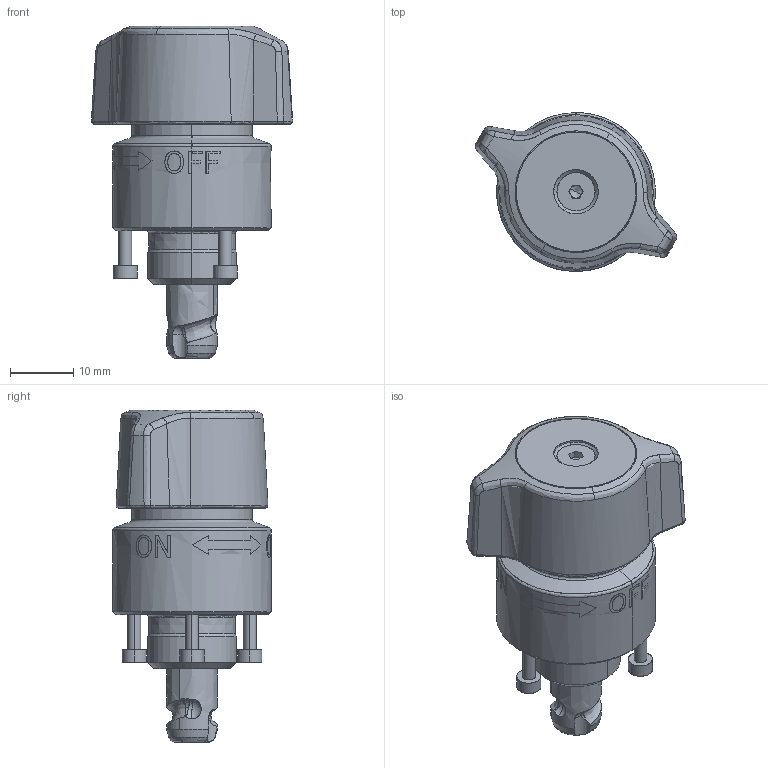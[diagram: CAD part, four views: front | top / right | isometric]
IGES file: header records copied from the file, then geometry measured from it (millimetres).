
Start section: SolidWorks IGES file using analytic representation for surfaces
Global section: file name: Y:\5.更新分\2024年対応\0119_QCA溝＆ボール入れ\配信用\QCTHSA0825-20\QCTHSA0825-20.IGS; native system: SolidWorks 2022; preprocessor: SolidWorks 2022; author: ImaoCorp; date: 240124.165109; units: millimetre
Bounding box: 31.7 x 25 x 52.3 mm (x, y, z)
Surface area: 9798.7 mm2 (no closed solid volume)
Topology: 0 solids, 0 shells, 362 faces, 3833 edges, 3824 vertices
Faces by surface type: bspline 218, revolution 144
